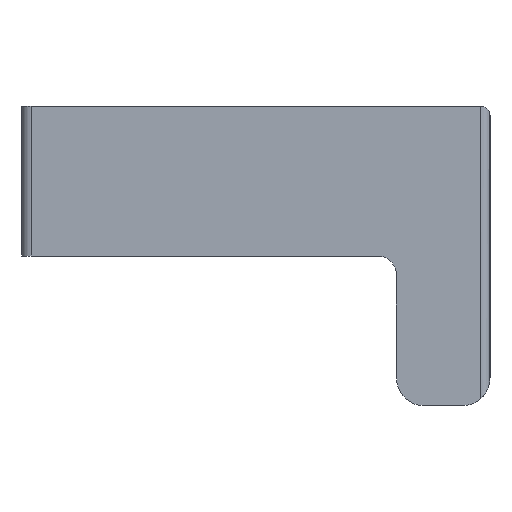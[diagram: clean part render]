
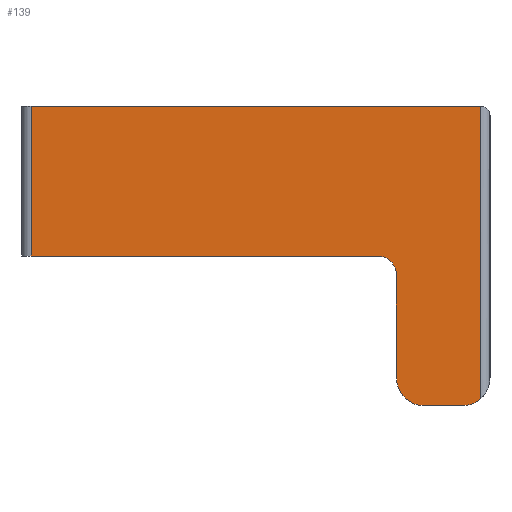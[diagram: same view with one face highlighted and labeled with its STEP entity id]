
A CAD part, left-side view. The second image highlights one B-rep face of the part: STEP entity #139.
In plain terms, the highlighted planar face has unit normal (-1, 0, 0).
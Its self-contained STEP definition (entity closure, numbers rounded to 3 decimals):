
#135 = VERTEX_POINT( '', #369 );
#139 = ADVANCED_FACE( '', ( #373 ), #374, .F. );
#149 = EDGE_CURVE( '', #135, #285, #385, .T. );
#171 = VERTEX_POINT( '', #413 );
#189 = EDGE_CURVE( '', #285, #195, #432, .T. );
#193 = VERTEX_POINT( '', #436 );
#195 = VERTEX_POINT( '', #438 );
#205 = VERTEX_POINT( '', #449 );
#207 = VERTEX_POINT( '', #451 );
#213 = EDGE_CURVE( '', #255, #171, #457, .T. );
#215 = EDGE_CURVE( '', #195, #205, #459, .T. );
#239 = EDGE_CURVE( '', #301, #207, #487, .T. );
#255 = VERTEX_POINT( '', #503 );
#281 = EDGE_CURVE( '', #193, #135, #531, .T. );
#283 = EDGE_CURVE( '', #301, #171, #533, .T. );
#285 = VERTEX_POINT( '', #535 );
#301 = VERTEX_POINT( '', #554 );
#319 = EDGE_CURVE( '', #207, #193, #574, .T. );
#327 = EDGE_CURVE( '', #205, #255, #582, .T. );
#369 = CARTESIAN_POINT( '', ( -7.5, -20., -10.5 ) );
#373 = FACE_OUTER_BOUND( '', #621, .T. );
#374 = PLANE( '', #622 );
#385 = LINE( '', #637, #638 );
#413 = CARTESIAN_POINT( '', ( -7.5, -24.5, 4. ) );
#432 = CIRCLE( '', #701, 1. );
#436 = CARTESIAN_POINT( '', ( -7.5, -21.5, -12. ) );
#438 = CARTESIAN_POINT( '', ( -7.5, -19., -4. ) );
#449 = CARTESIAN_POINT( '', ( -7.5, -0.5, -4. ) );
#451 = CARTESIAN_POINT( '', ( -7.5, -23.5, -12. ) );
#457 = LINE( '', #736, #737 );
#459 = LINE( '', #740, #741 );
#487 = CIRCLE( '', #777, 1.5 );
#503 = CARTESIAN_POINT( '', ( -7.5, -0.5, 4. ) );
#531 = CIRCLE( '', #838, 1.5 );
#533 = LINE( '', #841, #842 );
#535 = CARTESIAN_POINT( '', ( -7.5, -20., -5. ) );
#554 = CARTESIAN_POINT( '', ( -7.5, -24.5, -11.618 ) );
#574 = LINE( '', #905, #906 );
#582 = LINE( '', #918, #919 );
#621 = EDGE_LOOP( '', ( #953, #954, #955, #956, #957, #958, #959, #960, #961 ) );
#622 = AXIS2_PLACEMENT_3D( '', #962, #963, #964 );
#637 = CARTESIAN_POINT( '', ( -7.5, -20., -10.5 ) );
#638 = VECTOR( '', #977, 1. );
#701 = AXIS2_PLACEMENT_3D( '', #1047, #1048, #1049 );
#736 = CARTESIAN_POINT( '', ( -7.5, 0., 4. ) );
#737 = VECTOR( '', #1067, 1. );
#740 = CARTESIAN_POINT( '', ( -7.5, -19., -4. ) );
#741 = VECTOR( '', #1068, 1. );
#777 = AXIS2_PLACEMENT_3D( '', #1103, #1104, #1105 );
#838 = AXIS2_PLACEMENT_3D( '', #1142, #1143, #1144 );
#841 = CARTESIAN_POINT( '', ( -7.5, -24.5, -4. ) );
#842 = VECTOR( '', #1145, 1. );
#905 = CARTESIAN_POINT( '', ( -7.5, -23.5, -12. ) );
#906 = VECTOR( '', #1192, 1. );
#918 = CARTESIAN_POINT( '', ( -7.5, -0.5, -4. ) );
#919 = VECTOR( '', #1197, 1. );
#953 = ORIENTED_EDGE( '', *, *, #327, .F. );
#954 = ORIENTED_EDGE( '', *, *, #215, .F. );
#955 = ORIENTED_EDGE( '', *, *, #189, .F. );
#956 = ORIENTED_EDGE( '', *, *, #149, .F. );
#957 = ORIENTED_EDGE( '', *, *, #281, .F. );
#958 = ORIENTED_EDGE( '', *, *, #319, .F. );
#959 = ORIENTED_EDGE( '', *, *, #239, .F. );
#960 = ORIENTED_EDGE( '', *, *, #283, .T. );
#961 = ORIENTED_EDGE( '', *, *, #213, .F. );
#962 = CARTESIAN_POINT( '', ( -7.5, 0., 0. ) );
#963 = DIRECTION( '', ( 1., 0., 0. ) );
#964 = DIRECTION( '', ( 0., 0., -1. ) );
#977 = DIRECTION( '', ( 0., 0., 1. ) );
#1047 = CARTESIAN_POINT( '', ( -7.5, -19., -5. ) );
#1048 = DIRECTION( '', ( -1., 0., 0. ) );
#1049 = DIRECTION( '', ( 0., -1., 0. ) );
#1067 = DIRECTION( '', ( 0., -1., 0. ) );
#1068 = DIRECTION( '', ( 0., 1., 0. ) );
#1103 = CARTESIAN_POINT( '', ( -7.5, -23.5, -10.5 ) );
#1104 = DIRECTION( '', ( 1., 0., 0. ) );
#1105 = DIRECTION( '', ( 0., -1., 0. ) );
#1142 = CARTESIAN_POINT( '', ( -7.5, -21.5, -10.5 ) );
#1143 = DIRECTION( '', ( 1., 0., 0. ) );
#1144 = DIRECTION( '', ( 0., 0., -1. ) );
#1145 = DIRECTION( '', ( 0., 0., 1. ) );
#1192 = DIRECTION( '', ( 0., 1., 0. ) );
#1197 = DIRECTION( '', ( 0., 0., 1. ) );
